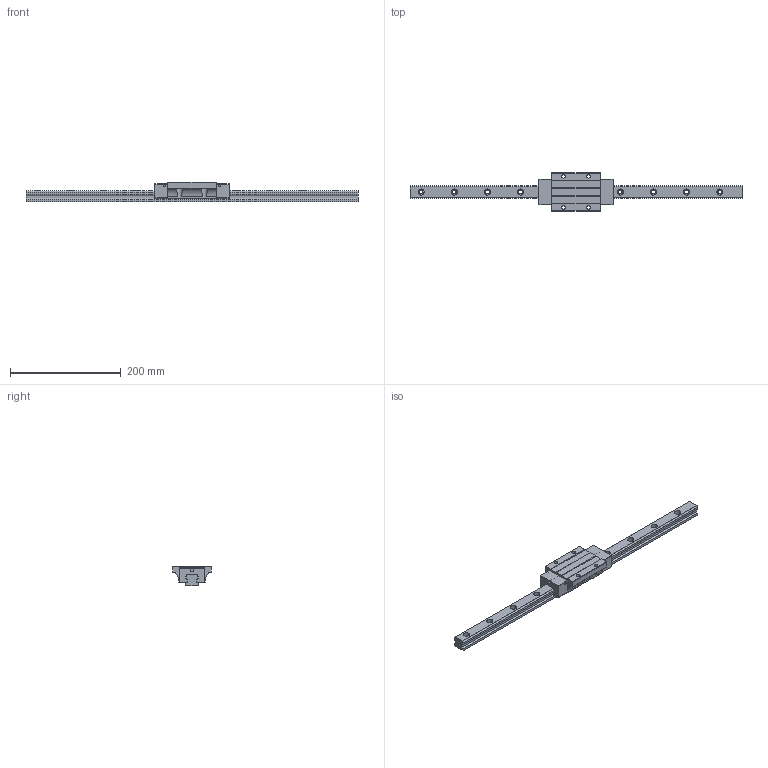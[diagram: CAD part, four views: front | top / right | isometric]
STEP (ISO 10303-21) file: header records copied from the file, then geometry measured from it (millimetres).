
FILE_DESCRIPTION (( 'STEP AP203' ), '1' );
FILE_NAME ('TRH25FE-DZ.STEP', '2024-07-04T06:06:58', ( '' ), ( '' ), 'SwSTEP 2.0', 'SolidWorks 2022', '' );
FILE_SCHEMA (( 'CONFIG_CONTROL_DESIGN' ));
Length unit declared in the file: millimetre
Products named in the file (1): TRH25FE-DZ
Bounding box: 600 x 70 x 36 mm (x, y, z)
Volume: 397193.5 mm3; surface area: 91700.9 mm2
Topology: 2 solids, 2 shells, 230 faces, 622 edges, 408 vertices
Faces by surface type: cylinder 130, plane 96, sphere 4
Entity records: 7829 total; most frequent: CARTESIAN_POINT 1773, DIRECTION 1276, ORIENTED_EDGE 1236, EDGE_CURVE 618, AXIS2_PLACEMENT_3D 459, VERTEX_POINT 408, VECTOR 358, LINE 358
